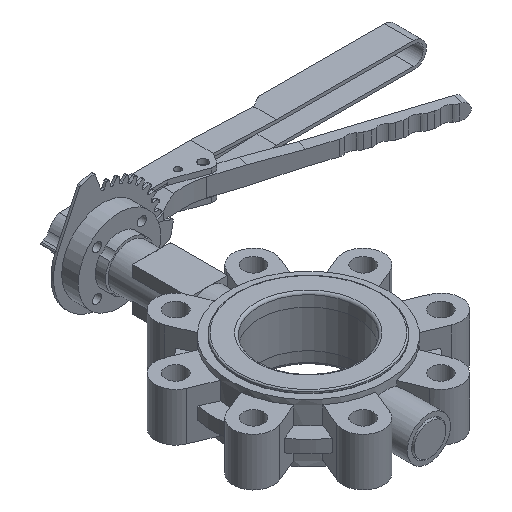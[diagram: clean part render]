
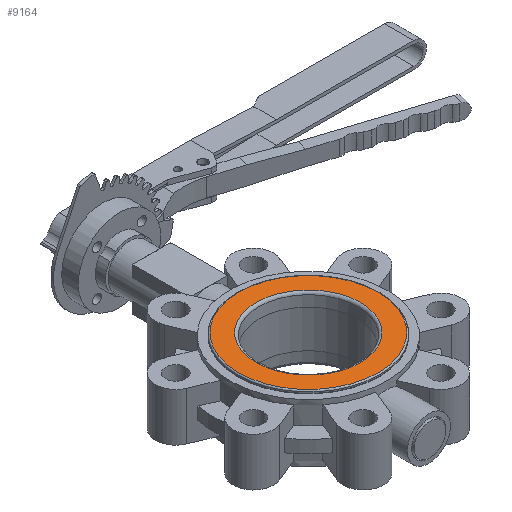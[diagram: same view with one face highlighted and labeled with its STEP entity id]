
A CAD part, isometric view. The second image highlights one B-rep face of the part: STEP entity #9164.
In plain terms, the highlighted planar face has unit normal (0, 0, 1) as drawn and (-1, 0, 0) by its records, which use the part's own axes.
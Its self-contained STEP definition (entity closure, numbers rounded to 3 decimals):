
#5 = EDGE_LOOP ( 'NONE', ( #4034 ) ) ;
#506 = AXIS2_PLACEMENT_3D ( 'NONE', #9232, #10094, #4971 ) ;
#541 = CARTESIAN_POINT ( 'NONE',  ( -25., 0., 41.14 ) ) ;
#1020 = DIRECTION ( 'NONE',  ( 1., 0., 0. ) ) ;
#1237 = VERTEX_POINT ( 'NONE', #8364 ) ;
#1804 = DIRECTION ( 'NONE',  ( 0., 0., 1. ) ) ;
#2417 = ORIENTED_EDGE ( 'NONE', *, *, #5907, .T. ) ;
#2501 = FACE_OUTER_BOUND ( 'NONE', #4248, .T. ) ;
#2709 = CARTESIAN_POINT ( 'NONE',  ( -25., 0., 0. ) ) ;
#2753 = AXIS2_PLACEMENT_3D ( 'NONE', #2709, #1020, #4338 ) ;
#3463 = PLANE ( 'NONE',  #2753 ) ;
#4034 = ORIENTED_EDGE ( 'NONE', *, *, #10912, .F. ) ;
#4248 = EDGE_LOOP ( 'NONE', ( #2417 ) ) ;
#4338 = DIRECTION ( 'NONE',  ( 0., 0., -1. ) ) ;
#4840 = VERTEX_POINT ( 'NONE', #541 ) ;
#4971 = DIRECTION ( 'NONE',  ( 0., 0., 1. ) ) ;
#5210 = DIRECTION ( 'NONE',  ( -1., 0., 0. ) ) ;
#5907 = EDGE_CURVE ( 'NONE', #1237, #1237, #6436, .T. ) ;
#6436 = CIRCLE ( 'NONE', #10748, 55. ) ;
#8364 = CARTESIAN_POINT ( 'NONE',  ( -25., 0., 55. ) ) ;
#9164 = ADVANCED_FACE ( 'NONE', ( #9175, #2501 ), #3463, .F. ) ;
#9175 = FACE_BOUND ( 'NONE', #5, .T. ) ;
#9232 = CARTESIAN_POINT ( 'NONE',  ( -25., 0., 0. ) ) ;
#10094 = DIRECTION ( 'NONE',  ( -1., 0., 0. ) ) ;
#10293 = CARTESIAN_POINT ( 'NONE',  ( -25., 0., 0. ) ) ;
#10736 = CIRCLE ( 'NONE', #506, 41.14 ) ;
#10748 = AXIS2_PLACEMENT_3D ( 'NONE', #10293, #5210, #1804 ) ;
#10912 = EDGE_CURVE ( 'NONE', #4840, #4840, #10736, .T. ) ;
